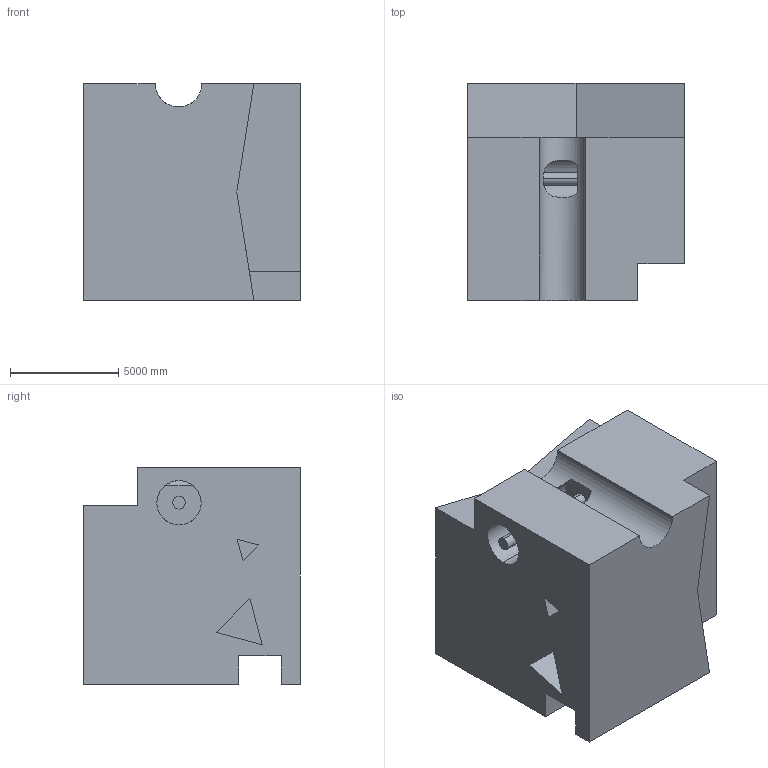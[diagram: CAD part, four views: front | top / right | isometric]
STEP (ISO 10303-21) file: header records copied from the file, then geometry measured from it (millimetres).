
FILE_DESCRIPTION (( 'STEP AP203' ), '1' );
FILE_NAME ('876.STEP', '2022-07-29T13:55:12', ( 'user' ), ( '' ), 'SwSTEP 2.0', 'SolidWorks 2021', '' );
FILE_SCHEMA (( 'CONFIG_CONTROL_DESIGN' ));
Length unit declared in the file: centimetre
Products named in the file (1): 876
Bounding box: 10000 x 10000 x 10000 mm (x, y, z)
Volume: 808385535193.9 mm3; surface area: 732637186.8 mm2
Topology: 1 solids, 1 shells, 39 faces, 102 edges, 68 vertices
Faces by surface type: plane 30, cylinder 9
Entity records: 1535 total; most frequent: CARTESIAN_POINT 475, ORIENTED_EDGE 204, DIRECTION 198, EDGE_CURVE 102, VECTOR 80, LINE 80, VERTEX_POINT 68, AXIS2_PLACEMENT_3D 59
